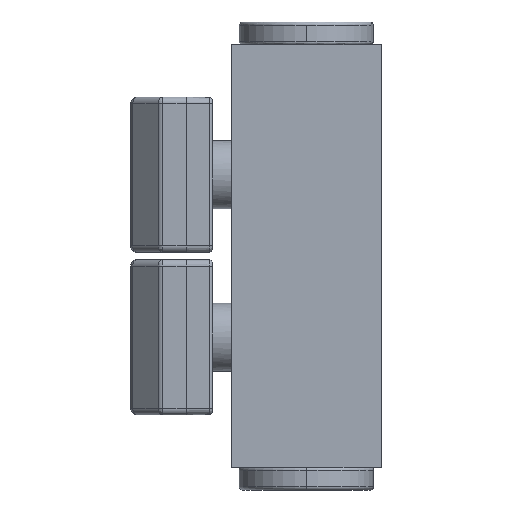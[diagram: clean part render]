
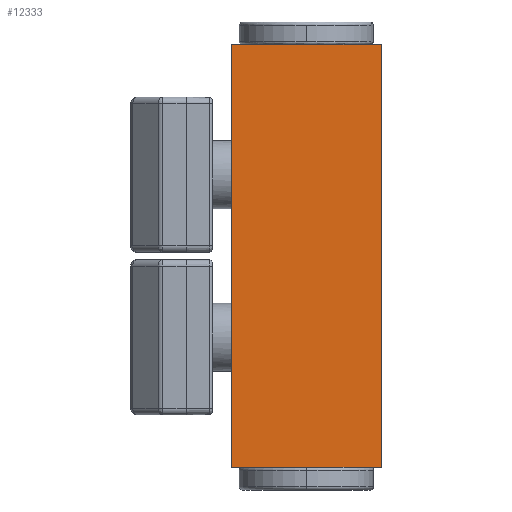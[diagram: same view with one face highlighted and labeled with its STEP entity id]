
A CAD part, left-side view. The second image highlights one B-rep face of the part: STEP entity #12333.
In plain terms, the highlighted planar face has unit normal (-1, 0, 0).
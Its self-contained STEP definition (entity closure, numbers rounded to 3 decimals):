
#194 = VECTOR ( 'NONE', #17029, 1000. ) ;
#343 = CARTESIAN_POINT ( 'NONE',  ( -11.5, 11.5, -32.5 ) ) ;
#702 = ORIENTED_EDGE ( 'NONE', *, *, #19527, .F. ) ;
#1643 = EDGE_CURVE ( 'NONE', #1664, #16957, #3633, .T. ) ;
#1664 = VERTEX_POINT ( 'NONE', #10907 ) ;
#2528 = PLANE ( 'NONE',  #16335 ) ;
#2538 = DIRECTION ( 'NONE',  ( 0., 1., 0. ) ) ;
#2817 = EDGE_LOOP ( 'NONE', ( #702, #16576, #16911, #11979 ) ) ;
#3633 = LINE ( 'NONE', #343, #14084 ) ;
#3823 = VECTOR ( 'NONE', #2538, 1000. ) ;
#4201 = EDGE_CURVE ( 'NONE', #18121, #7535, #14919, .T. ) ;
#7084 = DIRECTION ( 'NONE',  ( 0., 0., 1. ) ) ;
#7264 = CARTESIAN_POINT ( 'NONE',  ( -11.5, -11.5, -65. ) ) ;
#7535 = VERTEX_POINT ( 'NONE', #7264 ) ;
#9740 = LINE ( 'NONE', #12123, #11425 ) ;
#10907 = CARTESIAN_POINT ( 'NONE',  ( -11.5, 11.5, 0. ) ) ;
#11425 = VECTOR ( 'NONE', #18781, 1000. ) ;
#11903 = CARTESIAN_POINT ( 'NONE',  ( -11.5, -11.5, 0. ) ) ;
#11979 = ORIENTED_EDGE ( 'NONE', *, *, #1643, .T. ) ;
#12072 = CARTESIAN_POINT ( 'NONE',  ( -11.5, 11.5, -65. ) ) ;
#12123 = CARTESIAN_POINT ( 'NONE',  ( -11.5, 0., -65. ) ) ;
#12333 = ADVANCED_FACE ( 'NONE', ( #13109 ), #2528, .T. ) ;
#12440 = DIRECTION ( 'NONE',  ( 0., 0., -1. ) ) ;
#13109 = FACE_OUTER_BOUND ( 'NONE', #2817, .T. ) ;
#13115 = CARTESIAN_POINT ( 'NONE',  ( -11.5, -11.5, -65. ) ) ;
#14084 = VECTOR ( 'NONE', #12440, 1000. ) ;
#14171 = EDGE_CURVE ( 'NONE', #18121, #1664, #15932, .T. ) ;
#14919 = LINE ( 'NONE', #18543, #194 ) ;
#15932 = LINE ( 'NONE', #19358, #3823 ) ;
#16166 = DIRECTION ( 'NONE',  ( -1., 0., 0. ) ) ;
#16335 = AXIS2_PLACEMENT_3D ( 'NONE', #13115, #16166, #7084 ) ;
#16576 = ORIENTED_EDGE ( 'NONE', *, *, #4201, .F. ) ;
#16911 = ORIENTED_EDGE ( 'NONE', *, *, #14171, .T. ) ;
#16957 = VERTEX_POINT ( 'NONE', #12072 ) ;
#17029 = DIRECTION ( 'NONE',  ( 0., 0., -1. ) ) ;
#18121 = VERTEX_POINT ( 'NONE', #11903 ) ;
#18543 = CARTESIAN_POINT ( 'NONE',  ( -11.5, -11.5, -32.5 ) ) ;
#18781 = DIRECTION ( 'NONE',  ( 0., 1., 0. ) ) ;
#19358 = CARTESIAN_POINT ( 'NONE',  ( -11.5, 0., 0. ) ) ;
#19527 = EDGE_CURVE ( 'NONE', #7535, #16957, #9740, .T. ) ;
